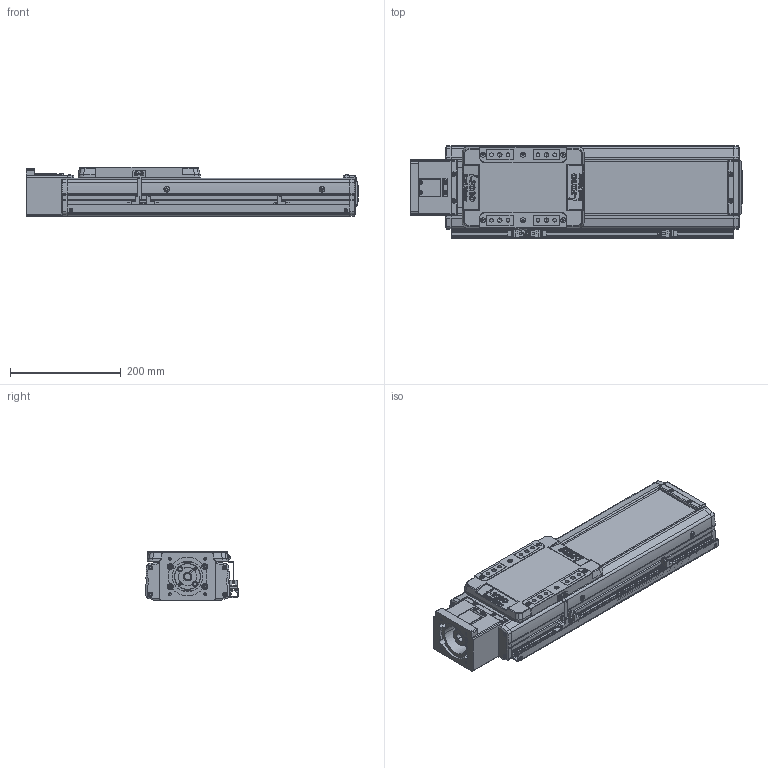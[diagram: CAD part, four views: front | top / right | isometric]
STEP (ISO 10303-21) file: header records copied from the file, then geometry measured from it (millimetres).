
FILE_DESCRIPTION(('STEP AP214'),'1');
FILE_NAME('Z:/Web/3D/SAN150/2013.04 (STP.)/SAN150ㅁㅁ-250S+3SR.stp','2013-05-08T02:23:18',(' '),(' '),'Spatial InterOp 3D',' ',' ');
FILE_SCHEMA(('automotive_design'));
Length unit declared in the file: millimetre
Products named in the file (93): SLBL-SAN150; SLCV-SAN150; FHCS M4.0 x 8.0; BHCS M4.0 x 10.0; SFX-SAN150; RRCV-SAN150; FRBL-SAN150; Spacer; RN15; FRCV-SAN150; Screw 20; BASE-SAN150-000L ; SUS COVER; 스크루 : Round - M5.0 x 6.0; BHCS M3.0 x 6.0; SSFX-SAN65; CPLCV-SAN65; SDWA47C(2); SDWA47C(3-1); SDWA47C(3); SDWA47C(1); SDWA47C(4); SDWA47C(5); MTHZ-SAN150-80; M3.0 x 6.0; SRL-16x17-360L; SGD-SAN150; EE-SX674; SBK-SX674-352; 스크루 : Round - M3.0 x 6.0
Bounding box: 599 x 166 x 90 mm (x, y, z)
Volume: 3897847.8 mm3; surface area: 812067.4 mm2
Topology: 93 solids, 93 shells, 3268 faces, 8489 edges, 5507 vertices
Faces by surface type: plane 1555, cylinder 1219, cone 373, sphere 76, bspline 29, torus 16
Entity records: 131280 total; most frequent: CARTESIAN_POINT 20707, DIRECTION 18359, ORIENTED_EDGE 16778, EDGE_CURVE 8389, AXIS2_PLACEMENT_3D 6782, VERTEX_POINT 5507, LINE 4795, VECTOR 4795
